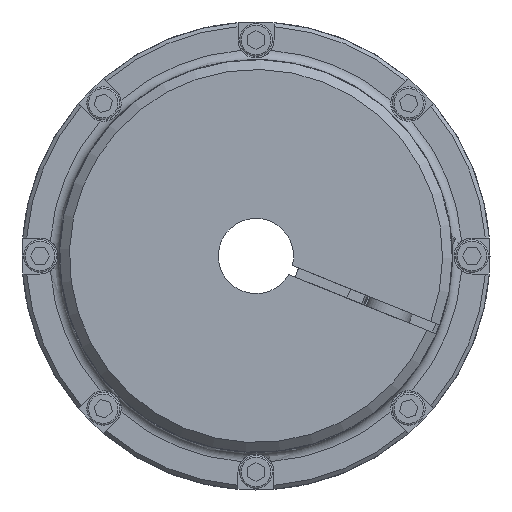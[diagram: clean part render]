
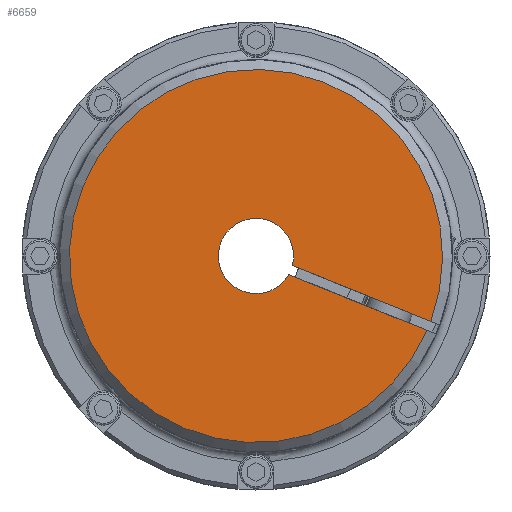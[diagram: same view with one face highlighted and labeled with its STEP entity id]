
A CAD part, left-side view. The second image highlights one B-rep face of the part: STEP entity #6659.
In plain terms, the highlighted planar face has unit normal (-1, 0, 0).
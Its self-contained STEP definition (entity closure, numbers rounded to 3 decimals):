
#982=LINE('',#13808,#1382);
#983=LINE('',#13812,#1383);
#1382=VECTOR('',#8481,1000.);
#1383=VECTOR('',#8484,1000.);
#3150=ORIENTED_EDGE('',*,*,#4242,.F.);
#3151=ORIENTED_EDGE('',*,*,#4243,.T.);
#3152=ORIENTED_EDGE('',*,*,#4244,.F.);
#3153=ORIENTED_EDGE('',*,*,#4239,.F.);
#4239=EDGE_CURVE('',#4917,#4919,#5145,.T.);
#4242=EDGE_CURVE('',#4921,#4917,#982,.T.);
#4243=EDGE_CURVE('',#4921,#4922,#5147,.T.);
#4244=EDGE_CURVE('',#4919,#4922,#983,.T.);
#4917=VERTEX_POINT('',#13800);
#4919=VERTEX_POINT('',#13803);
#4921=VERTEX_POINT('',#13809);
#4922=VERTEX_POINT('',#13811);
#5145=CIRCLE('',#7160,11.5);
#5147=CIRCLE('',#7163,57.);
#5602=EDGE_LOOP('',(#3150,#3151,#3152,#3153));
#6088=FACE_BOUND('',#5602,.T.);
#6288=PLANE('',#7162);
#6659=ADVANCED_FACE('',(#6088),#6288,.T.);
#7160=AXIS2_PLACEMENT_3D('',#13802,#8474,#8475);
#7162=AXIS2_PLACEMENT_3D('',#13807,#8479,#8480);
#7163=AXIS2_PLACEMENT_3D('',#13810,#8482,#8483);
#8474=DIRECTION('',(-1.,0.,0.));
#8475=DIRECTION('',(0.,0.,1.));
#8479=DIRECTION('',(-1.,0.,0.));
#8480=DIRECTION('',(0.,0.,1.));
#8481=DIRECTION('',(0.,0.927,0.375));
#8482=DIRECTION('',(-1.,0.,0.));
#8483=DIRECTION('',(0.,0.,1.));
#8484=DIRECTION('',(0.,-0.927,-0.375));
#13800=CARTESIAN_POINT('',(0.,-11.133,-2.88));
#13802=CARTESIAN_POINT('',(0.,0.,0.));
#13803=CARTESIAN_POINT('',(0.,-10.01,-5.662));
#13807=CARTESIAN_POINT('',(0.,0.,11.5));
#13808=CARTESIAN_POINT('',(0.,-71.07,-27.096));
#13809=CARTESIAN_POINT('',(0.,-53.393,-19.954));
#13810=CARTESIAN_POINT('',(0.,0.,0.));
#13811=CARTESIAN_POINT('',(0.,-52.269,-22.736));
#13812=CARTESIAN_POINT('',(0.,0.562,-1.391));
